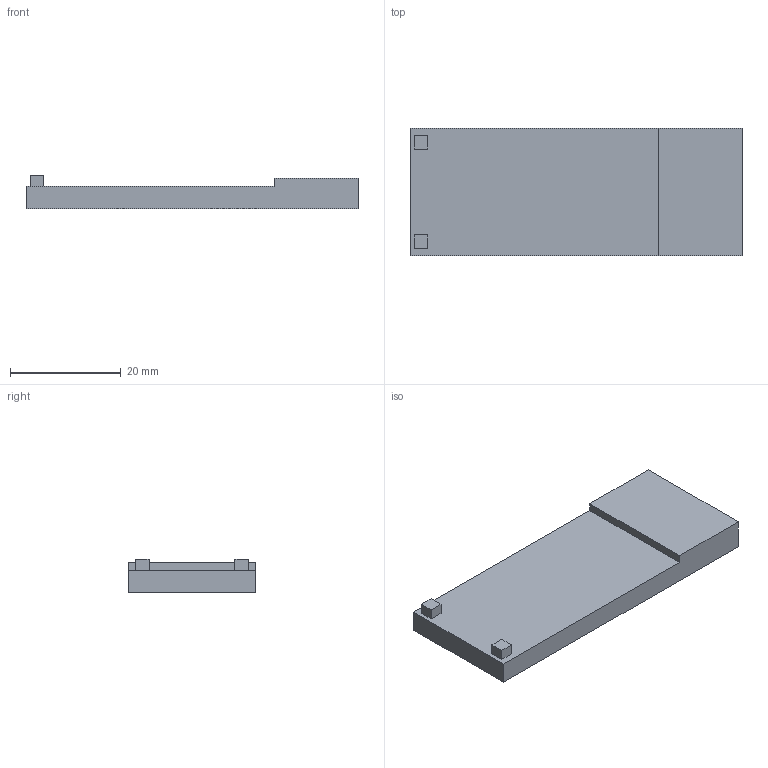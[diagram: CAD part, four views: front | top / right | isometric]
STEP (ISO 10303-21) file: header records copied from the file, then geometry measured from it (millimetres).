
FILE_DESCRIPTION(('HOOPS Exchange Step'),'2;1');
FILE_NAME('/Users/tim/Library/Containers/com.shapr3d.shapr/Data/tmp/export/temp_export','2024-03-22T11:56:28-04:00',('tim'),('Shapr3D Limited'),'HOOPS Exchange 2023.2','Shapr3D','Authorized');
FILE_SCHEMA( ('AUTOMOTIVE_DESIGN { 1 0 10303 214 1 1 1 1 }') );
Length unit declared in the file: millimetre
Products named in the file (1): Master Spine
Bounding box: 60 x 23 x 6 mm (x, y, z)
Volume: 6062.5 mm3; surface area: 3578 mm2
Topology: 1 solids, 1 shells, 18 faces, 42 edges, 28 vertices
Faces by surface type: plane 18
Entity records: 530 total; most frequent: CARTESIAN_POINT 89, ORIENTED_EDGE 84, DIRECTION 80, VECTOR 42, LINE 42, EDGE_CURVE 42, VERTEX_POINT 28, EDGE_LOOP 20
